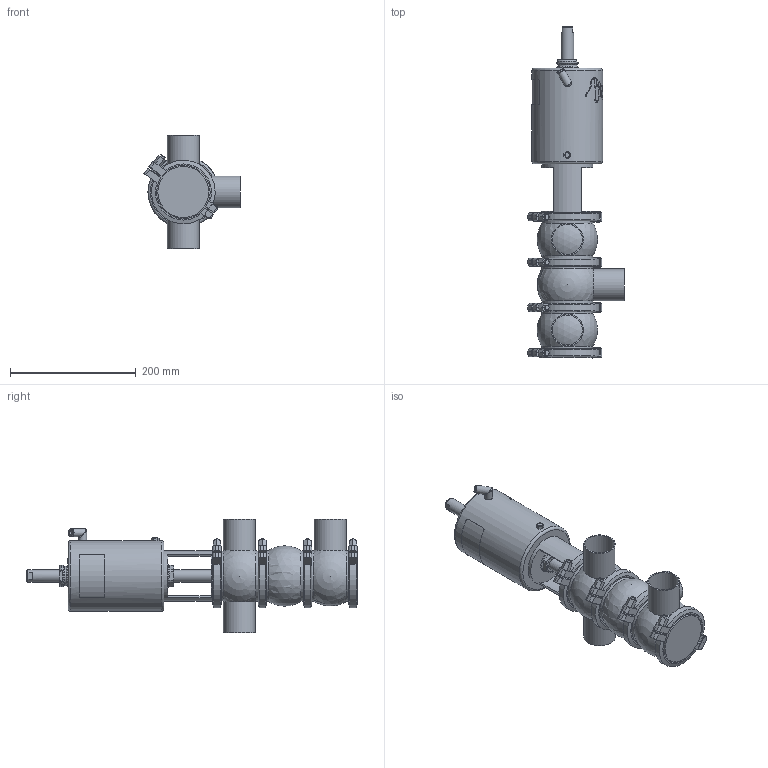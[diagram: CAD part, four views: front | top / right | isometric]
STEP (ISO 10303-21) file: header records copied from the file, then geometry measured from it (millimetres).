
FILE_DESCRIPTION (( 'STEP AP214' ), '1' );
FILE_NAME ('INNOVA L P W OD 2 T2 AS NC_10.241.16.0016.STEP', '2024-08-07T07:42:15', ( '' ), ( '' ), 'SwSTEP 2.0', 'SolidWorks 2023', '' );
FILE_SCHEMA (( 'AUTOMOTIVE_DESIGN' ));
Length unit declared in the file: millimetre
Products named in the file (7): 10.240.15.0014_T2 AS P180; 10.240.15.0010_DN 050; 10.240.15.0007_OD 2"; 10.240.15.0006_OD 2"; INNOVA L P W OD 2 T2 AS NC_10.241.16.0016; 10.241.15.0001_DIN 050; 10.240.15.0001_DN 050
Assembly tree (10 placements, depth 2):
  INNOVA L P W OD 2 T2 AS NC_10.241.16.0016
    10.240.15.0007_OD 2"
    10.240.15.0006_OD 2"  x2
    10.240.15.0010_DN 050
    10.240.15.0014_T2 AS P180
    10.240.15.0001_DN 050  x4
    10.241.15.0001_DIN 050
Bounding box: 152.59 x 527.27 x 180 mm (x, y, z)
Volume: 3247251.1 mm3; surface area: 378196.3 mm2
Topology: 11 solids, 11 shells, 536 faces, 1408 edges, 917 vertices
Faces by surface type: plane 261, cylinder 138, bspline 80, cone 46, sphere 7, torus 4
Full cylindrical faces by diameter (mm): 6.15 x1, 8 x9, 8.5 x1, 10.5 x1, 12.5 x3, 16 x1, 20 x2, 31 x1, 34.5 x2, 36.5 x1, 47.5 x4, 50.8 x4, 81 x8, 93 x8, 112.5 x1
Entity records: 20742 total; most frequent: CARTESIAN_POINT 11313, ORIENTED_EDGE 1624, DIRECTION 1275, EDGE_CURVE 812, VERTEX_POINT 563, AXIS2_PLACEMENT_3D 493, EDGE_LOOP 431, FACE_OUTER_BOUND 386
